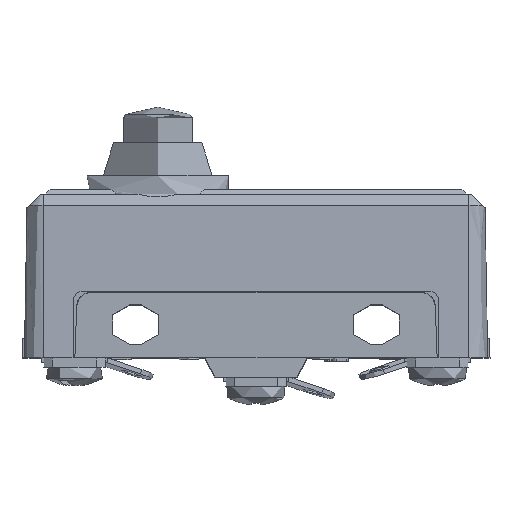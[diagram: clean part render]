
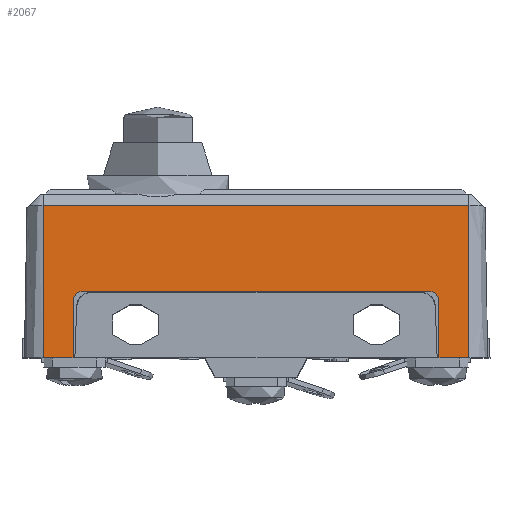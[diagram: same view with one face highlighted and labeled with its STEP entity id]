
A CAD part, top view. The second image highlights one B-rep face of the part: STEP entity #2067.
In plain terms, the highlighted planar face has unit normal (0, 0.018, 1).
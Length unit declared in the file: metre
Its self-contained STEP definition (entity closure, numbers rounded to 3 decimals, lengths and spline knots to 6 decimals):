
#266=CARTESIAN_POINT('',(0.015474,-0.001118,0.057944));
#267=VERTEX_POINT('',#266);
#282=CARTESIAN_POINT('',(0.015474,-0.007218,0.05805));
#283=VERTEX_POINT('',#282);
#286=CARTESIAN_POINT('',(0.015474,-0.007218,0.05805));
#287=DIRECTION('',(0.,1.,-0.017));
#288=VECTOR('',#287,1.);
#289=LINE('',#286,#288);
#290=EDGE_CURVE('',#283,#267,#289,.T.);
#558=CARTESIAN_POINT('',(0.018674,0.009066,0.057766));
#559=VERTEX_POINT('',#558);
#562=CARTESIAN_POINT('',(0.018674,-0.007218,0.05805));
#563=DIRECTION('',(0.,-1.,0.017));
#564=VECTOR('',#563,1.);
#565=LINE('',#562,#564);
#566=CARTESIAN_POINT('',(0.018674,-0.007218,0.05805));
#567=VERTEX_POINT('',#566);
#568=EDGE_CURVE('',#559,#567,#565,.T.);
#1713=CARTESIAN_POINT('',(-0.026826,-0.007218,0.05805));
#1714=DIRECTION('',(1.,0.,0.));
#1715=VECTOR('',#1714,1.);
#1716=LINE('',#1713,#1715);
#1717=EDGE_CURVE('',#283,#567,#1716,.T.);
#1985=CARTESIAN_POINT('',(0.014474,-0.000118,0.057926));
#1986=VERTEX_POINT('',#1985);
#1991=CARTESIAN_POINT('',(0.014474,-0.001118,0.057944));
#1992=DIRECTION('',(0.,0.017,1.));
#1993=DIRECTION('',(0.,-1.,0.017));
#1994=AXIS2_PLACEMENT_3D('',#1991,#1992,#1993);
#1995=ELLIPSE('',#1994,0.001,0.001);
#1996=EDGE_CURVE('',#267,#1986,#1995,.T.);
#2009=CARTESIAN_POINT('',(-0.026826,-0.007218,0.05805));
#2010=DIRECTION('',(0.,0.017,1.));
#2011=DIRECTION('',(0.,1.,-0.017));
#2012=AXIS2_PLACEMENT_3D('',#2009,#2010,#2011);
#2013=PLANE('',#2012);
#2014=CARTESIAN_POINT('',(-0.023626,-0.007218,0.05805));
#2015=DIRECTION('',(0.,-1.,0.017));
#2016=VECTOR('',#2015,1.);
#2017=LINE('',#2014,#2016);
#2018=CARTESIAN_POINT('',(-0.023626,-0.001118,0.057944));
#2019=VERTEX_POINT('',#2018);
#2020=CARTESIAN_POINT('',(-0.023626,-0.007218,0.05805));
#2021=VERTEX_POINT('',#2020);
#2022=EDGE_CURVE('',#2019,#2021,#2017,.T.);
#2023=ORIENTED_EDGE('',*,*,#2022,.F.);
#2024=CARTESIAN_POINT('',(-0.022626,-0.001118,0.057944));
#2025=DIRECTION('',(0.,0.017,1.));
#2026=DIRECTION('',(0.,-1.,0.017));
#2027=AXIS2_PLACEMENT_3D('',#2024,#2025,#2026);
#2028=ELLIPSE('',#2027,0.001,0.001);
#2029=CARTESIAN_POINT('',(-0.022626,-0.000118,0.057926));
#2030=VERTEX_POINT('',#2029);
#2031=EDGE_CURVE('',#2030,#2019,#2028,.T.);
#2032=ORIENTED_EDGE('',*,*,#2031,.F.);
#2033=CARTESIAN_POINT('',(-0.026826,-0.000118,0.057926));
#2034=DIRECTION('',(-1.,0.,0.));
#2035=VECTOR('',#2034,1.);
#2036=LINE('',#2033,#2035);
#2037=EDGE_CURVE('',#1986,#2030,#2036,.T.);
#2038=ORIENTED_EDGE('',*,*,#2037,.F.);
#2039=ORIENTED_EDGE('',*,*,#1996,.F.);
#2040=ORIENTED_EDGE('',*,*,#290,.F.);
#2041=ORIENTED_EDGE('',*,*,#1717,.T.);
#2042=ORIENTED_EDGE('',*,*,#568,.F.);
#2043=CARTESIAN_POINT('',(-0.026826,0.009066,0.057766));
#2044=DIRECTION('',(-1.,0.,0.));
#2045=VECTOR('',#2044,1.);
#2046=LINE('',#2043,#2045);
#2047=CARTESIAN_POINT('',(-0.026826,0.009066,0.057766));
#2048=VERTEX_POINT('',#2047);
#2049=EDGE_CURVE('',#559,#2048,#2046,.T.);
#2050=ORIENTED_EDGE('',*,*,#2049,.T.);
#2051=CARTESIAN_POINT('',(-0.026826,-0.007218,0.05805));
#2052=DIRECTION('',(0.,-1.,0.017));
#2053=VECTOR('',#2052,1.);
#2054=LINE('',#2051,#2053);
#2055=CARTESIAN_POINT('',(-0.026826,-0.007218,0.05805));
#2056=VERTEX_POINT('',#2055);
#2057=EDGE_CURVE('',#2048,#2056,#2054,.T.);
#2058=ORIENTED_EDGE('',*,*,#2057,.T.);
#2059=CARTESIAN_POINT('',(-0.026826,-0.007218,0.05805));
#2060=DIRECTION('',(1.,0.,0.));
#2061=VECTOR('',#2060,1.);
#2062=LINE('',#2059,#2061);
#2063=EDGE_CURVE('',#2056,#2021,#2062,.T.);
#2064=ORIENTED_EDGE('',*,*,#2063,.T.);
#2065=EDGE_LOOP('',(#2023,#2032,#2038,#2039,#2040,#2041,#2042,#2050,#2058,#2064));
#2066=FACE_BOUND('',#2065,.T.);
#2067=ADVANCED_FACE('',(#2066),#2013,.T.);
